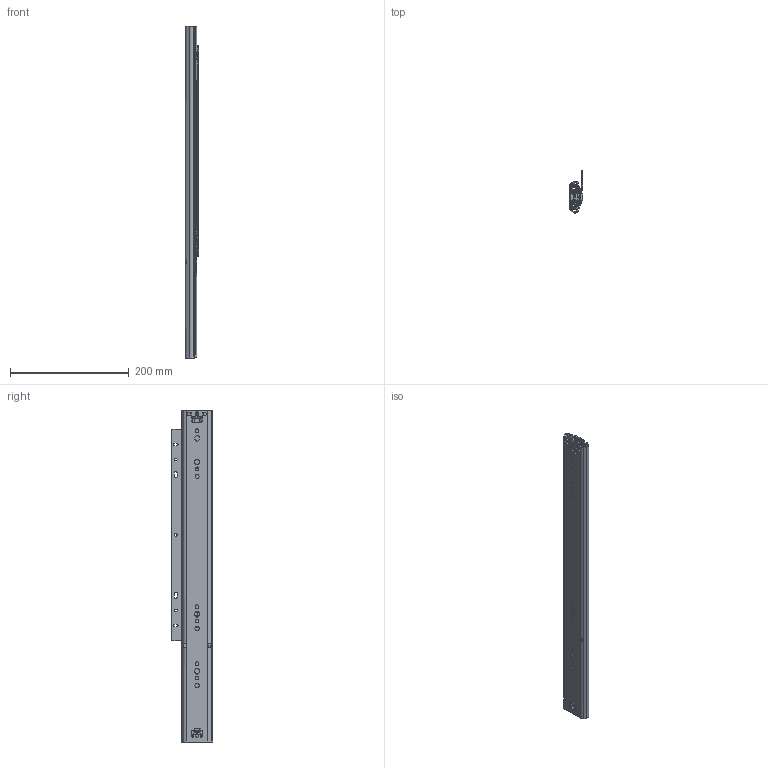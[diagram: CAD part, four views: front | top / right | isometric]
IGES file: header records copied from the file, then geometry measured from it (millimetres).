
Global section: file name: No Iges File Name specified; native system: Autodesk Inventor 2012; preprocessor: AutoDesk Inventor Iges Exporter R2012; author: HV83751; date: 20130708.091439; units: inch
Bounding box: 22.61 x 70.18 x 558.81 mm (x, y, z)
Surface area: 267184.8 mm2
Topology: 6 solids, 31 shells, 1574 faces, 4648 edges, 2998 vertices
Faces by surface type: plane 788, revolution 415, cylinder 316, bspline 46, torus 9
